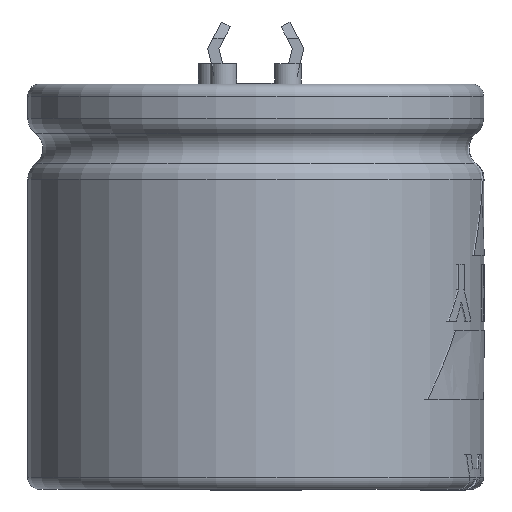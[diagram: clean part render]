
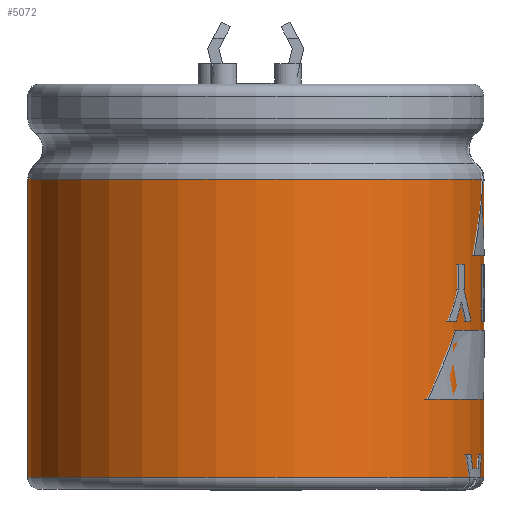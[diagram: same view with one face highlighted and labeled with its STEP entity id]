
A CAD part, left-side view. The second image highlights one B-rep face of the part: STEP entity #5072.
In plain terms, the highlighted cylindrical face has radius 18 mm (diameter 36 mm), a full revolution.
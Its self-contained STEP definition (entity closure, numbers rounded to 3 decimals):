
#5004 = TOROIDAL_SURFACE('',#5005,16.5,1.5);
#5005 = AXIS2_PLACEMENT_3D('',#5006,#5007,#5008);
#5006 = CARTESIAN_POINT('',(0.,0.,-6.55));
#5007 = DIRECTION('',(0.,0.,1.));
#5008 = DIRECTION('',(1.,0.,0.));
#5020 = EDGE_CURVE('',#5021,#5021,#5023,.T.);
#5021 = VERTEX_POINT('',#5022);
#5022 = CARTESIAN_POINT('',(18.,0.,-6.55));
#5023 = SURFACE_CURVE('',#5024,(#5029,#5036),.PCURVE_S1.);
#5024 = CIRCLE('',#5025,18.);
#5025 = AXIS2_PLACEMENT_3D('',#5026,#5027,#5028);
#5026 = CARTESIAN_POINT('',(0.,0.,-6.55));
#5027 = DIRECTION('',(0.,0.,1.));
#5028 = DIRECTION('',(1.,0.,0.));
#5029 = PCURVE('',#5004,#5030);
#5030 = DEFINITIONAL_REPRESENTATION('',(#5031),#5035);
#5031 = LINE('',#5032,#5033);
#5032 = CARTESIAN_POINT('',(0.,6.283));
#5033 = VECTOR('',#5034,1.);
#5034 = DIRECTION('',(1.,0.));
#5035 = ( GEOMETRIC_REPRESENTATION_CONTEXT(2) 
PARAMETRIC_REPRESENTATION_CONTEXT() REPRESENTATION_CONTEXT('2D SPACE',''
  ) );
#5036 = PCURVE('',#5037,#5042);
#5037 = CYLINDRICAL_SURFACE('',#5038,18.);
#5038 = AXIS2_PLACEMENT_3D('',#5039,#5040,#5041);
#5039 = CARTESIAN_POINT('',(0.,0.,-30.1));
#5040 = DIRECTION('',(0.,0.,1.));
#5041 = DIRECTION('',(1.,0.,0.));
#5042 = DEFINITIONAL_REPRESENTATION('',(#5043),#5047);
#5043 = LINE('',#5044,#5045);
#5044 = CARTESIAN_POINT('',(0.,23.55));
#5045 = VECTOR('',#5046,1.);
#5046 = DIRECTION('',(1.,0.));
#5047 = ( GEOMETRIC_REPRESENTATION_CONTEXT(2) 
PARAMETRIC_REPRESENTATION_CONTEXT() REPRESENTATION_CONTEXT('2D SPACE',''
  ) );
#5072 = ADVANCED_FACE('',(#5073),#5037,.T.);
#5073 = FACE_BOUND('',#5074,.T.);
#5074 = EDGE_LOOP('',(#5075,#5104,#5125,#5126));
#5075 = ORIENTED_EDGE('',*,*,#5076,.T.);
#5076 = EDGE_CURVE('',#5077,#5077,#5079,.T.);
#5077 = VERTEX_POINT('',#5078);
#5078 = CARTESIAN_POINT('',(18.,0.,-30.1));
#5079 = SURFACE_CURVE('',#5080,(#5085,#5092),.PCURVE_S1.);
#5080 = CIRCLE('',#5081,18.);
#5081 = AXIS2_PLACEMENT_3D('',#5082,#5083,#5084);
#5082 = CARTESIAN_POINT('',(0.,0.,-30.1));
#5083 = DIRECTION('',(0.,0.,1.));
#5084 = DIRECTION('',(1.,0.,0.));
#5085 = PCURVE('',#5037,#5086);
#5086 = DEFINITIONAL_REPRESENTATION('',(#5087),#5091);
#5087 = LINE('',#5088,#5089);
#5088 = CARTESIAN_POINT('',(0.,0.));
#5089 = VECTOR('',#5090,1.);
#5090 = DIRECTION('',(1.,0.));
#5091 = ( GEOMETRIC_REPRESENTATION_CONTEXT(2) 
PARAMETRIC_REPRESENTATION_CONTEXT() REPRESENTATION_CONTEXT('2D SPACE',''
  ) );
#5092 = PCURVE('',#5093,#5098);
#5093 = TOROIDAL_SURFACE('',#5094,17.05,0.95);
#5094 = AXIS2_PLACEMENT_3D('',#5095,#5096,#5097);
#5095 = CARTESIAN_POINT('',(0.,0.,-30.1));
#5096 = DIRECTION('',(0.,0.,1.));
#5097 = DIRECTION('',(1.,0.,0.));
#5098 = DEFINITIONAL_REPRESENTATION('',(#5099),#5103);
#5099 = LINE('',#5100,#5101);
#5100 = CARTESIAN_POINT('',(0.,6.283));
#5101 = VECTOR('',#5102,1.);
#5102 = DIRECTION('',(1.,0.));
#5103 = ( GEOMETRIC_REPRESENTATION_CONTEXT(2) 
PARAMETRIC_REPRESENTATION_CONTEXT() REPRESENTATION_CONTEXT('2D SPACE',''
  ) );
#5104 = ORIENTED_EDGE('',*,*,#5105,.T.);
#5105 = EDGE_CURVE('',#5077,#5021,#5106,.T.);
#5106 = SEAM_CURVE('',#5107,(#5111,#5118),.PCURVE_S1.);
#5107 = LINE('',#5108,#5109);
#5108 = CARTESIAN_POINT('',(18.,0.,-30.1));
#5109 = VECTOR('',#5110,1.);
#5110 = DIRECTION('',(0.,0.,1.));
#5111 = PCURVE('',#5037,#5112);
#5112 = DEFINITIONAL_REPRESENTATION('',(#5113),#5117);
#5113 = LINE('',#5114,#5115);
#5114 = CARTESIAN_POINT('',(0.,0.));
#5115 = VECTOR('',#5116,1.);
#5116 = DIRECTION('',(0.,1.));
#5117 = ( GEOMETRIC_REPRESENTATION_CONTEXT(2) 
PARAMETRIC_REPRESENTATION_CONTEXT() REPRESENTATION_CONTEXT('2D SPACE',''
  ) );
#5118 = PCURVE('',#5037,#5119);
#5119 = DEFINITIONAL_REPRESENTATION('',(#5120),#5124);
#5120 = LINE('',#5121,#5122);
#5121 = CARTESIAN_POINT('',(6.283,0.));
#5122 = VECTOR('',#5123,1.);
#5123 = DIRECTION('',(0.,1.));
#5124 = ( GEOMETRIC_REPRESENTATION_CONTEXT(2) 
PARAMETRIC_REPRESENTATION_CONTEXT() REPRESENTATION_CONTEXT('2D SPACE',''
  ) );
#5125 = ORIENTED_EDGE('',*,*,#5020,.F.);
#5126 = ORIENTED_EDGE('',*,*,#5105,.F.);
